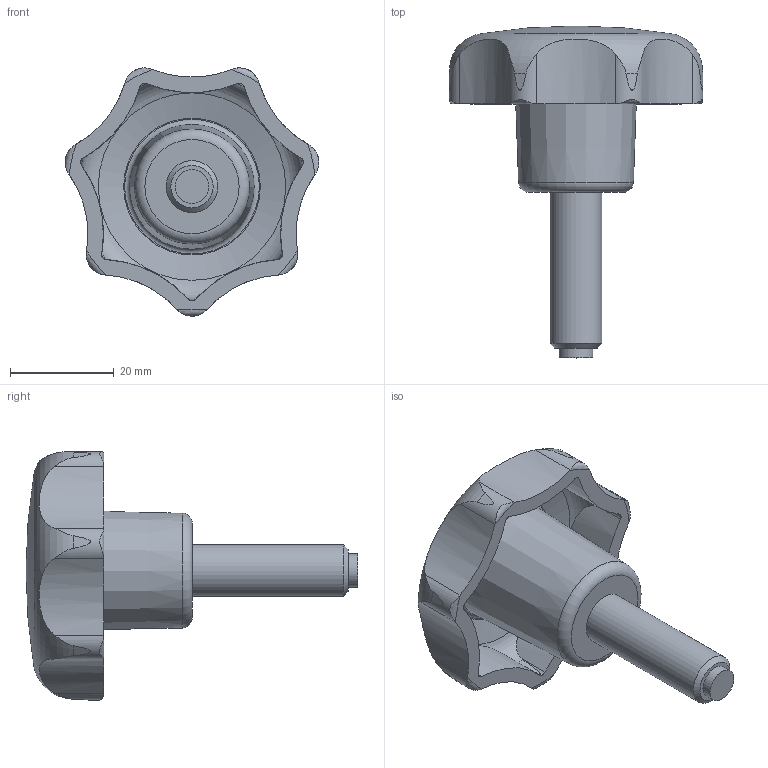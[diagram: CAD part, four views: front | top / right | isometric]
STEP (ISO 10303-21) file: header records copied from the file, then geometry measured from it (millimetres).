
FILE_DESCRIPTION( ( 'STEP AP203' ), '1' );
FILE_NAME( 'C:/Temp/Ganter_Step_05_03_2020/data/2_2/gn6336_10/Star knob GN 6336.10-50-M10-30-KU.stp', '2020-03-05T12:04:28', ( 'License CC BY-ND 4.0' ), ( 'CADENAS' ), ' ', 'PARTsolutions', ' ' );
FILE_SCHEMA( ( 'CONFIG_CONTROL_DESIGN' ) );
Length unit declared in the file: millimetre
Products named in the file (1): _Star knob GN 6336.10-50-M10-30-KU
Bounding box: 48.81 x 63.9 x 47.78 mm (x, y, z)
Volume: 22988.3 mm3; surface area: 9241.3 mm2
Topology: 1 solids, 1 shells, 64 faces, 189 edges, 129 vertices
Faces by surface type: cylinder 30, cone 17, torus 12, plane 4, sphere 1
Full cylindrical faces by diameter (mm): 6.5 x1, 10 x1
Entity records: 3108 total; most frequent: CARTESIAN_POINT 1546, ORIENTED_EDGE 346, DIRECTION 266, EDGE_CURVE 173, VERTEX_POINT 125, AXIS2_PLACEMENT_3D 119, B_SPLINE_CURVE_WITH_KNOTS 91, EDGE_LOOP 77
